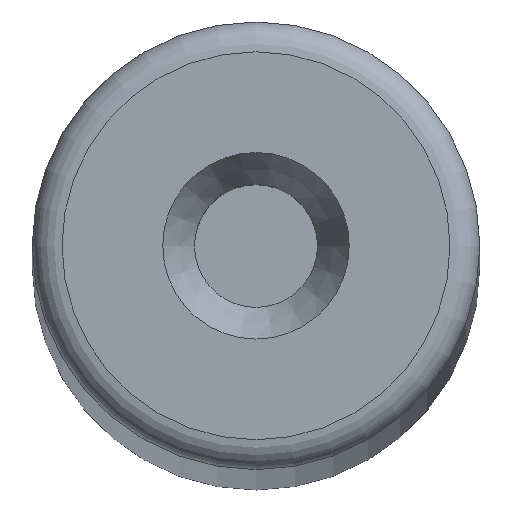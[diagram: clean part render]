
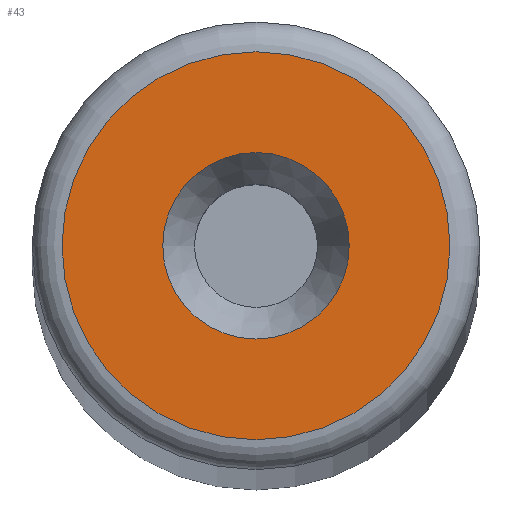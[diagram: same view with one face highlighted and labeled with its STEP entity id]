
A CAD part, top view. The second image highlights one B-rep face of the part: STEP entity #43.
In plain terms, the highlighted planar face has unit normal (0, 0, 1).
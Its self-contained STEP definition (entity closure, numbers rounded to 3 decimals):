
#43=ADVANCED_FACE('',(#58,#59),#54,.T.);
#54=PLANE('',#149);
#58=FACE_BOUND('',#76,.T.);
#59=FACE_BOUND('',#77,.T.);
#76=EDGE_LOOP('',(#96));
#77=EDGE_LOOP('',(#97));
#96=ORIENTED_EDGE('',*,*,#126,.T.);
#97=ORIENTED_EDGE('',*,*,#127,.F.);
#116=VERTEX_POINT('',#214);
#117=VERTEX_POINT('',#216);
#126=EDGE_CURVE('',#116,#116,#136,.T.);
#127=EDGE_CURVE('',#117,#117,#137,.T.);
#136=CIRCLE('',#147,5.2);
#137=CIRCLE('',#148,2.5);
#147=AXIS2_PLACEMENT_3D('',#213,#170,#171);
#148=AXIS2_PLACEMENT_3D('',#215,#172,#173);
#149=AXIS2_PLACEMENT_3D('',#217,#174,#175);
#170=DIRECTION('',(0.,0.,1.));
#171=DIRECTION('',(1.,0.,0.));
#172=DIRECTION('',(0.,0.,1.));
#173=DIRECTION('',(1.,0.,0.));
#174=DIRECTION('',(0.,0.,1.));
#175=DIRECTION('',(1.,0.,0.));
#213=CARTESIAN_POINT('',(0.,0.,314.));
#214=CARTESIAN_POINT('',(5.2,0.,314.));
#215=CARTESIAN_POINT('',(0.,0.,314.));
#216=CARTESIAN_POINT('',(2.5,0.,314.));
#217=CARTESIAN_POINT('',(0.,0.,314.));
